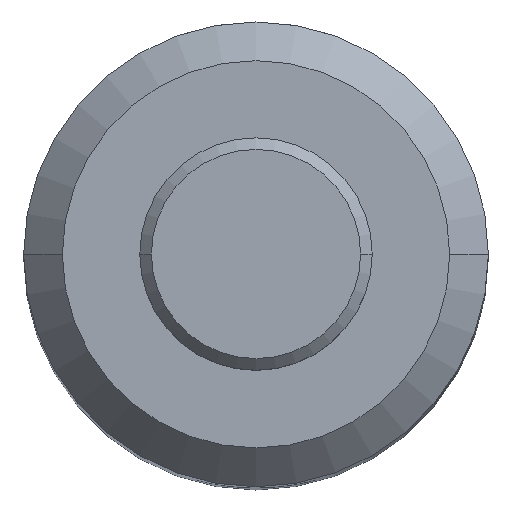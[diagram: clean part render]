
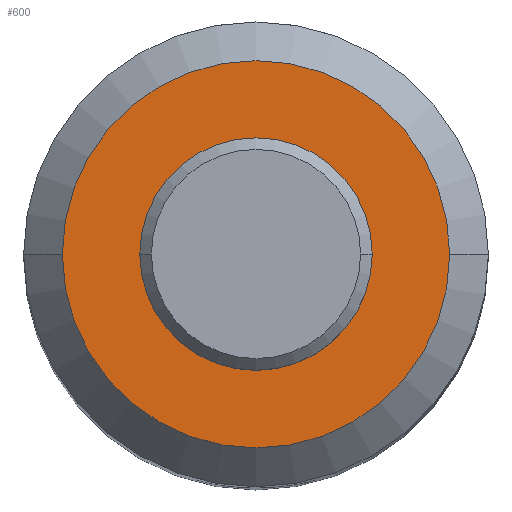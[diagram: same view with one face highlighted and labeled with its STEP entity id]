
A CAD part, top view. The second image highlights one B-rep face of the part: STEP entity #600.
In plain terms, the highlighted planar face has unit normal (0, 0, 1).
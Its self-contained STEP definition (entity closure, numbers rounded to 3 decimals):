
#18 = CIRCLE ( 'NONE', #296, 2.25 ) ;
#20 = ORIENTED_EDGE ( 'NONE', *, *, #201, .T. ) ;
#53 = EDGE_CURVE ( 'NONE', #394, #66, #718, .T. ) ;
#66 = VERTEX_POINT ( 'NONE', #179 ) ;
#163 = EDGE_CURVE ( 'NONE', #407, #230, #750, .T. ) ;
#167 = EDGE_LOOP ( 'NONE', ( #734, #566 ) ) ;
#179 = CARTESIAN_POINT ( 'NONE',  ( 5., 0., 50. ) ) ;
#201 = EDGE_CURVE ( 'NONE', #66, #394, #625, .T. ) ;
#207 = DIRECTION ( 'NONE',  ( 1., 0., 0. ) ) ;
#215 = DIRECTION ( 'NONE',  ( 0., 0., 1. ) ) ;
#230 = VERTEX_POINT ( 'NONE', #731 ) ;
#247 = ORIENTED_EDGE ( 'NONE', *, *, #53, .T. ) ;
#296 = AXIS2_PLACEMENT_3D ( 'NONE', #666, #325, #729 ) ;
#298 = PLANE ( 'NONE',  #500 ) ;
#325 = DIRECTION ( 'NONE',  ( 0., 0., 1. ) ) ;
#355 = CARTESIAN_POINT ( 'NONE',  ( 0., 0., 50. ) ) ;
#363 = AXIS2_PLACEMENT_3D ( 'NONE', #736, #215, #207 ) ;
#367 = DIRECTION ( 'NONE',  ( 0., 0., 1. ) ) ;
#394 = VERTEX_POINT ( 'NONE', #628 ) ;
#395 = CARTESIAN_POINT ( 'NONE',  ( 2.25, 0., 50. ) ) ;
#407 = VERTEX_POINT ( 'NONE', #395 ) ;
#410 = AXIS2_PLACEMENT_3D ( 'NONE', #494, #604, #726 ) ;
#414 = EDGE_LOOP ( 'NONE', ( #247, #20 ) ) ;
#494 = CARTESIAN_POINT ( 'NONE',  ( 0., 0., 50. ) ) ;
#500 = AXIS2_PLACEMENT_3D ( 'NONE', #355, #579, #701 ) ;
#503 = FACE_OUTER_BOUND ( 'NONE', #414, .T. ) ;
#528 = FACE_BOUND ( 'NONE', #167, .T. ) ;
#533 = DIRECTION ( 'NONE',  ( 1., 0., 0. ) ) ;
#566 = ORIENTED_EDGE ( 'NONE', *, *, #163, .F. ) ;
#579 = DIRECTION ( 'NONE',  ( 0., 0., 1. ) ) ;
#589 = AXIS2_PLACEMENT_3D ( 'NONE', #629, #367, #533 ) ;
#600 = ADVANCED_FACE ( 'NONE', ( #503, #528 ), #298, .T. ) ;
#604 = DIRECTION ( 'NONE',  ( 0., 0., 1. ) ) ;
#625 = CIRCLE ( 'NONE', #410, 5. ) ;
#628 = CARTESIAN_POINT ( 'NONE',  ( -5., 0., 50. ) ) ;
#629 = CARTESIAN_POINT ( 'NONE',  ( 0., 0., 50. ) ) ;
#666 = CARTESIAN_POINT ( 'NONE',  ( 0., 0., 50. ) ) ;
#701 = DIRECTION ( 'NONE',  ( 1., 0., 0. ) ) ;
#718 = CIRCLE ( 'NONE', #589, 5. ) ;
#726 = DIRECTION ( 'NONE',  ( 1., 0., 0. ) ) ;
#729 = DIRECTION ( 'NONE',  ( 1., 0., 0. ) ) ;
#731 = CARTESIAN_POINT ( 'NONE',  ( -2.25, 0., 50. ) ) ;
#734 = ORIENTED_EDGE ( 'NONE', *, *, #748, .F. ) ;
#736 = CARTESIAN_POINT ( 'NONE',  ( 0., 0., 50. ) ) ;
#748 = EDGE_CURVE ( 'NONE', #230, #407, #18, .T. ) ;
#750 = CIRCLE ( 'NONE', #363, 2.25 ) ;
